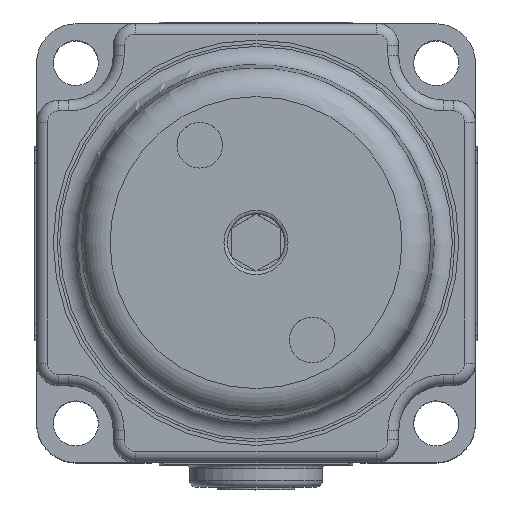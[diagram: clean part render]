
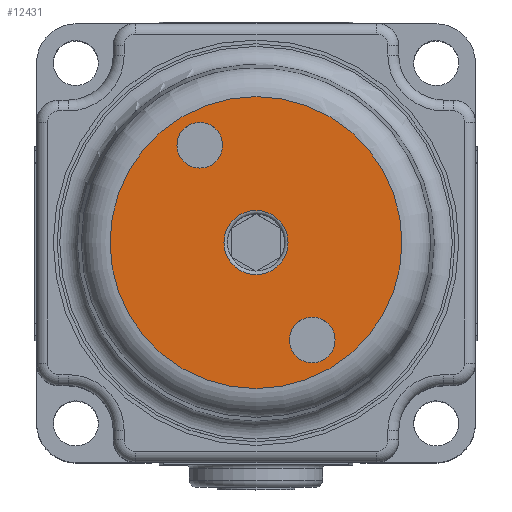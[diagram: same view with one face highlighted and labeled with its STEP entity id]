
A CAD part, top view. The second image highlights one B-rep face of the part: STEP entity #12431.
In plain terms, the highlighted planar face has unit normal (0, 0, 1).
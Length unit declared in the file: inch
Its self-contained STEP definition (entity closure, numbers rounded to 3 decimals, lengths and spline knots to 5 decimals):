
#333=FACE_BOUND('',#1602,.T.);
#334=FACE_BOUND('',#1603,.T.);
#335=FACE_BOUND('',#1604,.T.);
#477=PLANE('',#13211);
#888=FACE_OUTER_BOUND('',#1601,.T.);
#1601=EDGE_LOOP('',(#8355,#8356));
#1602=EDGE_LOOP('',(#8357,#8358));
#1603=EDGE_LOOP('',(#8359,#8360));
#1604=EDGE_LOOP('',(#8361,#8362));
#2321=CIRCLE('',#13198,0.089);
#2326=CIRCLE('',#13203,0.089);
#2333=CIRCLE('',#13212,0.4051);
#2334=CIRCLE('',#13213,0.4051);
#2335=CIRCLE('',#13214,0.0635);
#2336=CIRCLE('',#13215,0.0635);
#2337=CIRCLE('',#13216,0.0635);
#2338=CIRCLE('',#13217,0.0635);
#4932=VERTEX_POINT('',#20505);
#4933=VERTEX_POINT('',#20506);
#4943=VERTEX_POINT('',#20531);
#4944=VERTEX_POINT('',#20532);
#4945=VERTEX_POINT('',#20535);
#4946=VERTEX_POINT('',#20536);
#4947=VERTEX_POINT('',#20539);
#4948=VERTEX_POINT('',#20540);
#6229=EDGE_CURVE('',#4932,#4933,#2321,.T.);
#6234=EDGE_CURVE('',#4933,#4932,#2326,.T.);
#6242=EDGE_CURVE('',#4943,#4944,#2333,.T.);
#6243=EDGE_CURVE('',#4944,#4943,#2334,.T.);
#6244=EDGE_CURVE('',#4945,#4946,#2335,.T.);
#6245=EDGE_CURVE('',#4946,#4945,#2336,.T.);
#6246=EDGE_CURVE('',#4947,#4948,#2337,.T.);
#6247=EDGE_CURVE('',#4948,#4947,#2338,.T.);
#8355=ORIENTED_EDGE('',*,*,#6242,.T.);
#8356=ORIENTED_EDGE('',*,*,#6243,.T.);
#8357=ORIENTED_EDGE('',*,*,#6244,.T.);
#8358=ORIENTED_EDGE('',*,*,#6245,.T.);
#8359=ORIENTED_EDGE('',*,*,#6246,.T.);
#8360=ORIENTED_EDGE('',*,*,#6247,.T.);
#8361=ORIENTED_EDGE('',*,*,#6229,.F.);
#8362=ORIENTED_EDGE('',*,*,#6234,.F.);
#12431=ADVANCED_FACE('',(#888,#333,#334,#335),#477,.T.);
#13198=AXIS2_PLACEMENT_3D('',#20507,#15039,#15040);
#13203=AXIS2_PLACEMENT_3D('',#20515,#15049,#15050);
#13211=AXIS2_PLACEMENT_3D('',#20530,#15066,#15067);
#13212=AXIS2_PLACEMENT_3D('',#20533,#15068,#15069);
#13213=AXIS2_PLACEMENT_3D('',#20534,#15070,#15071);
#13214=AXIS2_PLACEMENT_3D('',#20537,#15072,#15073);
#13215=AXIS2_PLACEMENT_3D('',#20538,#15074,#15075);
#13216=AXIS2_PLACEMENT_3D('',#20541,#15076,#15077);
#13217=AXIS2_PLACEMENT_3D('',#20542,#15078,#15079);
#15039=DIRECTION('center_axis',(0.,0.,
1.));
#15040=DIRECTION('ref_axis',(0.5,-0.866,0.));
#15049=DIRECTION('center_axis',(0.,0.,
1.));
#15050=DIRECTION('ref_axis',(0.5,-0.866,0.));
#15066=DIRECTION('center_axis',(0.,0.,1.));
#15067=DIRECTION('ref_axis',(1.,0.,0.));
#15068=DIRECTION('center_axis',(0.,0.,1.));
#15069=DIRECTION('ref_axis',(-0.5,0.866,0.));
#15070=DIRECTION('center_axis',(0.,0.,1.));
#15071=DIRECTION('ref_axis',(-0.5,0.866,0.));
#15072=DIRECTION('center_axis',(0.,0.,
-1.));
#15073=DIRECTION('ref_axis',(0.414,0.91,0.));
#15074=DIRECTION('center_axis',(0.,0.,
-1.));
#15075=DIRECTION('ref_axis',(0.414,0.91,0.));
#15076=DIRECTION('center_axis',(0.,0.,-1.));
#15077=DIRECTION('ref_axis',(0.414,0.91,0.));
#15078=DIRECTION('center_axis',(0.,0.,-1.));
#15079=DIRECTION('ref_axis',(0.414,0.91,0.));
#20505=CARTESIAN_POINT('',(0.4183,0.11471,0.9997));
#20506=CARTESIAN_POINT('',(0.43022,0.07021,0.9997));
#20507=CARTESIAN_POINT('Origin',(0.34122,0.07021,0.9997));
#20515=CARTESIAN_POINT('Origin',(0.34122,0.07021,0.9997));
#20530=CARTESIAN_POINT('Origin',(-0.00995,-0.13254,
0.9997));
#20531=CARTESIAN_POINT('',(0.69205,0.27276,0.9997));
#20532=CARTESIAN_POINT('',(-0.06388,0.07021,0.9997));
#20533=CARTESIAN_POINT('Origin',(0.34122,0.07021,0.9997));
#20534=CARTESIAN_POINT('Origin',(0.34122,0.07021,0.9997));
#20535=CARTESIAN_POINT('',(0.24022,0.37216,0.9997));
#20536=CARTESIAN_POINT('',(0.13023,0.30866,0.9997));
#20537=CARTESIAN_POINT('Origin',(0.18522,0.34041,0.9997));
#20538=CARTESIAN_POINT('Origin',(0.18522,0.34041,0.9997));
#20539=CARTESIAN_POINT('',(0.55222,-0.16824,0.9997));
#20540=CARTESIAN_POINT('',(0.44223,-0.23174,0.9997));
#20541=CARTESIAN_POINT('Origin',(0.49722,-0.19999,0.9997));
#20542=CARTESIAN_POINT('Origin',(0.49722,-0.19999,0.9997));
